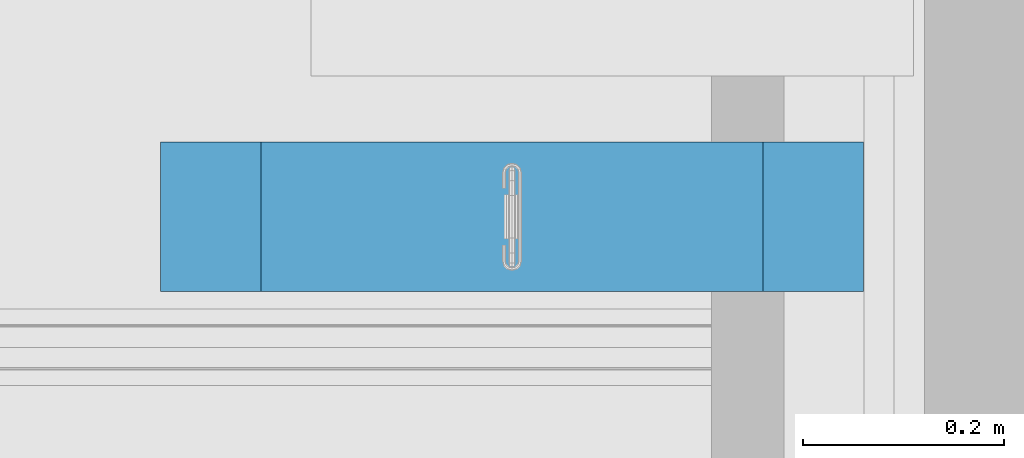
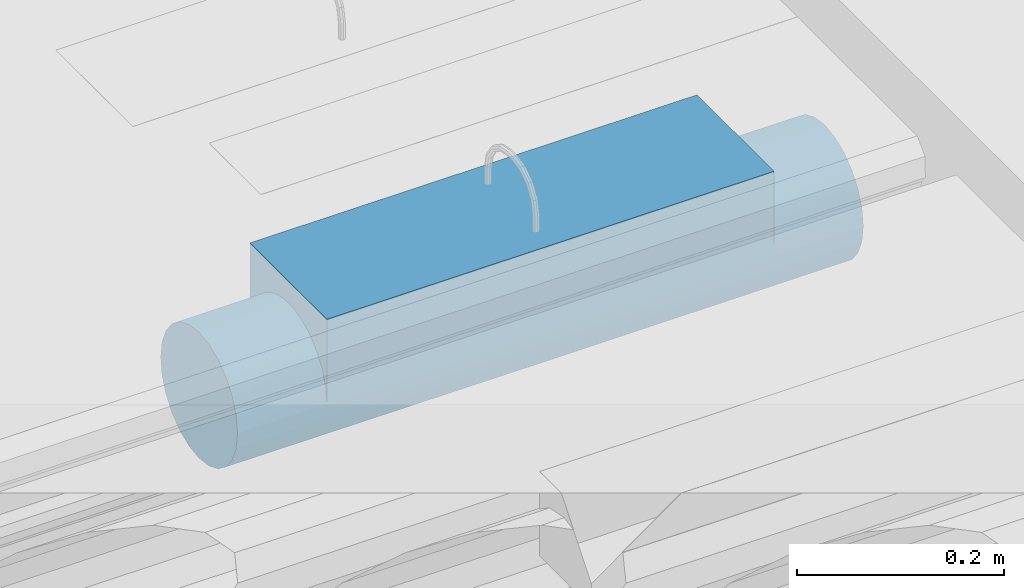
# One storey, part 168 of 230: 1 beam.
"""IFC4X3_ADD2 building model written with IfcOpenShell, lengths in millimetres."""

from ifc_helpers import new_model, si_unit, direction, origin_with_axes, place, context, subcontext, project, spatial, polygons, element, save


model = new_model("IFC4X3_ADD2")

# Units and contexts
model_context = context("Model", 3, precision=1e-05, world=origin_with_axes(), true_north=direction((0.0, 1.0)))
body_context = subcontext(model_context, "Body", "Model", "MODEL_VIEW")
ifc_project = project(units=[si_unit("LENGTHUNIT", "METRE", prefix="MILLI"), si_unit("AREAUNIT", "SQUARE_METRE"), si_unit("VOLUMEUNIT", "CUBIC_METRE"), si_unit("PLANEANGLEUNIT", "RADIAN"), si_unit("TIMEUNIT", "SECOND"), si_unit("MASSUNIT", "GRAM")], contexts=[model_context])

# Site, building, storey
site_placement = place(None, origin_with_axes())
site = spatial("IfcSite", under=ifc_project, at=site_placement, Name="Site", CompositionType="ELEMENT")
building_placement = place(site_placement, origin_with_axes())
building = spatial("IfcBuilding", under=site, at=building_placement, Name="IFC Building Story")
storey_placement = place(building_placement, origin_with_axes())
storey = spatial("IfcBuildingStorey", under=building, at=storey_placement, Name="ETAGE 00 (0)", Elevation=0.0)

# Beam
beam_placement = place(storey_placement, origin_with_axes())
element("IfcBeam", 1, at=beam_placement, inside=storey, Name="ES44", ObjectType="500*149", context=body_context, shape_type="Tessellation", body=[
    polygons([(39700.6922247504, -1501.96122667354, 4119.282009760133), (39600.6922247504, -1502.334918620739, 4117.829005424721), (39700.6922247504, -1504.499752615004, 4099.999990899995), (39700.6922247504, -1494.518645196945, 4137.249990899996), (39600.6922247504, -1495.966227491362, 4134.621865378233), (39600.6922247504, -1472.320577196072, 4161.312288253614), (39700.6922247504, -1482.679207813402, 4152.679446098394), (39700.6922247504, -1467.249752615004, 4164.518883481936), (39600.6922247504, -1456.417817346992, 4169.658700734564), (39700.6922247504, -1449.281771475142, 4171.961464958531), (39600.6922247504, -1485.763804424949, 4149.402627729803), (39600.6922247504, -1504.499752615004, 4099.999987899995), (39600.6922247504, -1438.979735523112, 4173.956801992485), (39700.6922247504, -1429.999752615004, 4174.499990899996), (39600.6922247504, -1421.019769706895, 4173.956801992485), (39700.6922247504, -1410.717733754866, 4171.961464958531), (39700.6922247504, -1392.749752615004, 4164.518883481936), (39600.6922247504, -1403.581687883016, 4169.658700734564), (39700.6922247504, -1365.480860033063, 4137.249990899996), (39700.6922247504, -1358.038278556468, 4119.282009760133), (39600.6922247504, -1364.033277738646, 4134.621865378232), (39600.6922247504, -1374.235700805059, 4149.402627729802), (39700.6922247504, -1377.320297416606, 4152.679446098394), (39600.6922247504, -1387.678928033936, 4161.312288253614), (39600.6922247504, -1357.66458660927, 4117.82900542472), (39700.6922247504, -1355.499752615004, 4099.999990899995), (39600.6922247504, -1355.499752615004, 4099.999987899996), (39100.6922247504, -1355.499752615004, 4199.999987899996), (39100.6922247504, -1504.499752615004, 4199.999987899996), (39600.6922247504, -1504.499752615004, 4199.999987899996), (39600.6922247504, -1355.499752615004, 4199.999987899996), (39100.6922247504, -1355.499752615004, 4099.999987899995), (39100.6922247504, -1357.66458660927, 4117.82900542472), (39100.6922247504, -1364.033277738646, 4134.621865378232), (39100.6922247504, -1374.235700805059, 4149.402627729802), (39100.6922247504, -1387.678928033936, 4161.312288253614), (39100.6922247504, -1403.581687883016, 4169.658700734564), (39100.6922247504, -1421.019769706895, 4173.956801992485), (39100.6922247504, -1438.979735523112, 4173.956801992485), (39100.6922247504, -1456.417817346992, 4169.658700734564), (39100.6922247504, -1472.320577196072, 4161.312288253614), (39100.6922247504, -1485.763804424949, 4149.402627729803), (39100.6922247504, -1495.966227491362, 4134.621865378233), (39100.6922247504, -1502.334918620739, 4117.829005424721), (39100.6922247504, -1504.499752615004, 4099.999987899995), (39000.6922247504, -1358.038278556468, 4119.282009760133), (39000.6922247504, -1355.499752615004, 4099.999990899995), (39000.6922247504, -1358.038278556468, 4080.717972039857), (39000.6922247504, -1365.480860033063, 4062.749990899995), (39000.6922247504, -1377.320297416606, 4047.320535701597), (39000.6922247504, -1392.749752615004, 4035.481098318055), (39000.6922247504, -1410.717733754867, 4028.03851684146), (39000.6922247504, -1429.999752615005, 4025.499990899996), (39000.6922247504, -1449.281771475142, 4028.03851684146), (39000.6922247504, -1467.249752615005, 4035.481098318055), (39000.6922247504, -1482.679207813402, 4047.320535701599), (39000.6922247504, -1494.518645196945, 4062.749990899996), (39000.6922247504, -1501.96122667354, 4080.717972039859), (39000.6922247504, -1504.499752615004, 4099.999990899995), (39000.6922247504, -1501.96122667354, 4119.282009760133), (39000.6922247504, -1494.518645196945, 4137.249990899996), (39000.6922247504, -1482.679207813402, 4152.679446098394), (39000.6922247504, -1467.249752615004, 4164.518883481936), (39000.6922247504, -1449.281771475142, 4171.961464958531), (39000.6922247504, -1429.999752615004, 4174.499990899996), (39000.6922247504, -1410.717733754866, 4171.961464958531), (39000.6922247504, -1392.749752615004, 4164.518883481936), (39000.6922247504, -1377.320297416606, 4152.679446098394), (39000.6922247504, -1365.480860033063, 4137.249990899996), (39700.6922247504, -1501.96122667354, 4080.717972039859), (39700.6922247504, -1494.518645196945, 4062.749990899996), (39700.6922247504, -1482.679207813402, 4047.320535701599), (39700.6922247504, -1467.249752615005, 4035.481098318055), (39700.6922247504, -1449.281771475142, 4028.03851684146), (39700.6922247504, -1429.999752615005, 4025.499990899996), (39700.6922247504, -1410.717733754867, 4028.03851684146), (39700.6922247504, -1392.749752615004, 4035.481098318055), (39700.6922247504, -1377.320297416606, 4047.320535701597), (39700.6922247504, -1365.480860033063, 4062.749990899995), (39700.6922247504, -1358.038278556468, 4080.717972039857), (39350.6922247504, -1361.170727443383, 4071.490075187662), (39350.6922247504, -1401.48983690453, 4031.170965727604), (39350.6922247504, -1384.64702615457, 4040.89516704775), (39350.6922247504, -1370.894928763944, 4054.647264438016), (39350.6922247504, -1420.275551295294, 4026.137348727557), (39350.6922247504, -1356.683099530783, 4086.774319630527), (39350.6922247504, -1439.723953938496, 4026.137348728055), (39350.6922247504, -1458.509668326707, 4031.170965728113), (39350.6922247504, -1503.316405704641, 4086.774319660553), (39350.6922247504, -1475.352479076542, 4040.895167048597), (39350.6922247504, -1489.10457646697, 4054.647264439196), (39350.6922247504, -1498.828777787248, 4071.490075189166)], [[[1, 2, 3]], [[4, 5, 1]], [[6, 7, 8]], [[9, 8, 10]], [[7, 11, 4]], [[1, 5, 2]], [[2, 12, 3]], [[6, 11, 7]], [[9, 6, 8]], [[10, 13, 9]], [[11, 5, 4]], [[10, 14, 13]], [[15, 14, 16]], [[17, 18, 16]], [[19, 20, 21]], [[22, 23, 19]], [[24, 17, 23]], [[25, 20, 26]], [[16, 18, 15]], [[17, 24, 18]], [[23, 22, 24]], [[19, 21, 22]], [[25, 21, 20]], [[26, 27, 25]], [[14, 15, 13]], [[28, 29, 30, 31]], [[44, 45, 29]], [[29, 43, 44]], [[29, 42, 43]], [[29, 41, 42]], [[29, 40, 41]], [[29, 39, 40]], [[29, 28, 38]], [[29, 38, 39]], [[28, 37, 38]], [[28, 36, 37]], [[28, 35, 36]], [[28, 34, 35]], [[28, 33, 34]], [[28, 32, 33]], [[30, 29, 45, 12]], [[25, 27, 31]], [[31, 21, 25]], [[31, 22, 21]], [[31, 24, 22]], [[31, 18, 24]], [[31, 15, 18]], [[31, 30, 13]], [[31, 13, 15]], [[30, 9, 13]], [[30, 6, 9]], [[30, 11, 6]], [[30, 5, 11]], [[30, 2, 5]], [[30, 12, 2]], [[28, 31, 27, 32]], [[46, 47, 48]], [[46, 48, 49]], [[46, 49, 50]], [[46, 50, 51]], [[46, 51, 52]], [[46, 52, 53]], [[46, 53, 54]], [[46, 54, 55]], [[46, 55, 56]], [[46, 56, 57]], [[46, 57, 58]], [[46, 58, 59]], [[46, 59, 60]], [[46, 60, 61]], [[46, 61, 62]], [[46, 62, 63]], [[46, 63, 64]], [[46, 64, 65]], [[46, 65, 66]], [[46, 66, 67]], [[46, 67, 68]], [[46, 68, 69]], [[1, 3, 70]], [[1, 70, 71]], [[1, 71, 72]], [[1, 72, 73]], [[1, 73, 74]], [[1, 74, 75]], [[1, 75, 76]], [[1, 76, 77]], [[1, 77, 78]], [[1, 78, 79]], [[1, 79, 80]], [[1, 80, 26]], [[1, 26, 20]], [[1, 20, 19]], [[1, 19, 23]], [[1, 23, 17]], [[1, 17, 16]], [[1, 16, 14]], [[1, 14, 10]], [[1, 10, 8]], [[1, 8, 7]], [[1, 7, 4]], [[43, 60, 44]], [[42, 61, 43]], [[40, 63, 41]], [[42, 41, 62]], [[64, 40, 39]], [[44, 59, 45]], [[44, 60, 59]], [[61, 42, 62]], [[41, 63, 62]], [[60, 43, 61]], [[40, 64, 63]], [[39, 65, 64]], [[37, 36, 67]], [[38, 37, 66]], [[35, 34, 69]], [[33, 32, 47]], [[34, 33, 46]], [[36, 35, 68]], [[37, 67, 66]], [[66, 65, 38]], [[67, 36, 68]], [[35, 69, 68]], [[46, 69, 34]], [[46, 33, 47]], [[38, 65, 39]], [[27, 26, 80]], [[79, 81, 80]], [[77, 76, 82]], [[83, 78, 77]], [[84, 79, 78]], [[85, 76, 75]], [[27, 86, 32]], [[86, 81, 48]], [[84, 83, 50]], [[48, 47, 32]], [[81, 86, 80]], [[83, 77, 82]], [[81, 84, 49]], [[49, 48, 81]], [[82, 85, 52]], [[50, 49, 84]], [[50, 83, 51]], [[85, 75, 87]], [[52, 51, 82]], [[84, 78, 83]], [[53, 52, 85]], [[83, 82, 51]], [[73, 88, 74]], [[12, 89, 70]], [[27, 80, 86]], [[72, 90, 73]], [[70, 3, 12]], [[87, 53, 85]], [[72, 71, 91]], [[70, 92, 71]], [[82, 76, 85]], [[88, 87, 74]], [[32, 86, 48]], [[89, 12, 45]], [[87, 88, 54]], [[88, 55, 54]], [[88, 90, 55]], [[55, 90, 56]], [[54, 53, 87]], [[90, 72, 91]], [[58, 57, 92]], [[56, 91, 57]], [[92, 70, 89]], [[59, 58, 45]], [[81, 79, 84]], [[90, 91, 56]], [[58, 92, 89]], [[91, 71, 92]], [[91, 92, 57]], [[87, 75, 74]], [[45, 58, 89]], [[88, 73, 90]]]),
])

save(model, "model.ifc")
